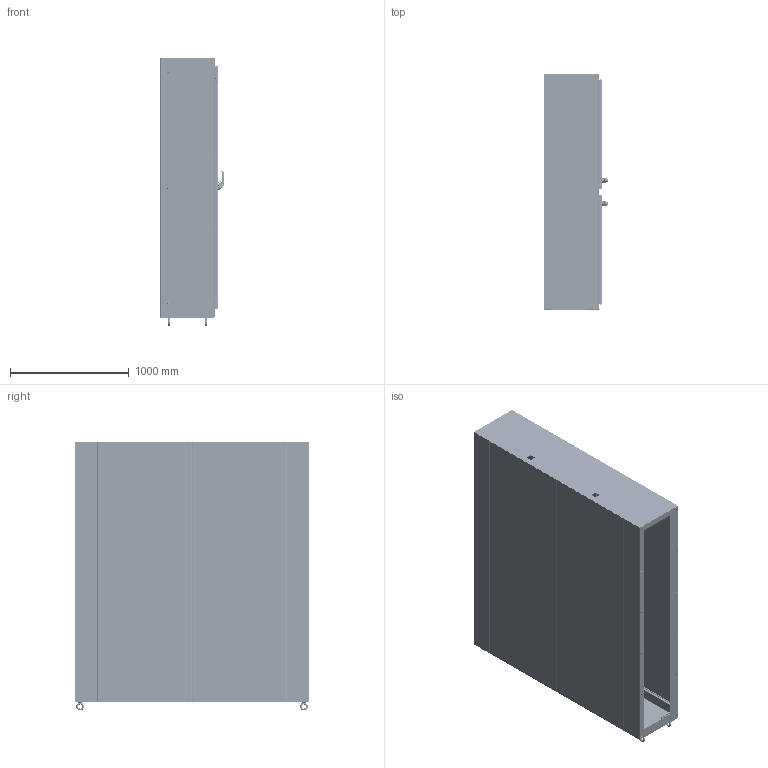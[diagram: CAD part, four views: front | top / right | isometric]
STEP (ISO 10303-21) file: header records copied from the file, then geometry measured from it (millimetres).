
FILE_DESCRIPTION((''),'2;1');
FILE_NAME('MODEL-437_ASM','2023-11-29T11:00:34',('JoelB'),('SAGINAW CONTROL & ENGINEERING'),'CREO PARAMETRIC BY PTC INC, 2021284','CREO PARAMETRIC BY PTC INC, 2021284','');
FILE_SCHEMA(('AUTOMOTIVE_DESIGN { 1 0 10303 214 1 1 1 1 }'));
Length unit declared in the file: inch
Products named in the file (93): MODEL-437-L-SD; MODEL-437-TP; MODEL-437-R-SD; MODEL-437-BTM; MODEL-437-RH-DR; 100837; 100957_HANDLE; 100957_HANDLE_INSERT; 100957_SHAFT_CAM; 100957_ADAPTER_CAM; 100957_NUT_CAM; 100957_BASE; 100957_O-RING; 100957_WASHER_SEALING; 100957_NUT_MOUNTING_LARGE; 100957_NUT_MOUNTING_SMALL; 100957_SCREW_SMALL; 100957_PADLOCK_CATCH; 100957_STOP_CAM; 100957_ASM; 102236; 100030; 102236_ASM; MODEL-437-ROD-RH-UPR; 128146; 128145; 128144; 102482; MODEL-437-ROD-RH-UPR_ASM; 128143; 100882; 112504; MODEL-437-ROD-RH-LWR; MODEL-437-ROD-RH-LWR_ASM; MODEL-437-PR-GSKT-RH; 128257; 128257_ASM; 126393; 102483; 101369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
Assembly tree (233 placements, depth 4):
  MODEL-437_ASM
    MODEL-437-L-SD
    MODEL-437-TP
    MODEL-437-R-SD
    MODEL-437-BTM
    MODEL-437-RH-DOOR-ASSY_ASM
      MODEL-437-RH-DR
      100837  x3
      100957_ASM
        100957_HANDLE
        100957_HANDLE_INSERT
        100957_SHAFT_CAM
        100957_ADAPTER_CAM
        100957_NUT_CAM
        100957_BASE
        100957_O-RING
        100957_WASHER_SEALING
        100957_NUT_MOUNTING_LARGE
        100957_NUT_MOUNTING_SMALL
        100957_SCREW_SMALL
        100957_PADLOCK_CATCH
        100957_STOP_CAM
      102236_ASM
        102236
        100030  x2
      MODEL-437-ROD-RH-UPR_ASM
        MODEL-437-ROD-RH-UPR
        128146
        128145
        128144
        102482  x2
      128143  x2
      100882  x10
      112504  x2
      MODEL-437-ROD-RH-LWR_ASM
        MODEL-437-ROD-RH-LWR
        128146
        128145
        128144
        102482  x2
      MODEL-437-PR-GSKT-RH
      128257_ASM  x4
        128257
      126393  x4
      102483  x4
      101369_ASM  x4
        101369
        101369-STUD
      101221  x4
    MODEL-437-LH-DOOR-ASSY_ASM
      MODEL-437-LH-DR
      100837  x3
      100957_ASM
        100957_HANDLE
        100957_HANDLE_INSERT
        100957_SHAFT_CAM
        100957_ADAPTER_CAM
        100957_NUT_CAM
        100957_BASE
        100957_O-RING
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Bounding box: 534.57 x 1974.85 x 2259.2 mm (x, y, z)
Volume: 49802774.1 mm3; surface area: 35558279.7 mm2
Topology: 266 solids, 266 shells, 23456 faces, 60018 edges, 37251 vertices
Faces by surface type: plane 8129, cylinder 6675, bspline 4711, torus 1701, cone 1241, sphere 678, extrusion 321
Entity records: 508721 total; most frequent: CARTESIAN_POINT 218416, ORIENTED_EDGE 42858, DIRECTION 41092, PRESENTATION_STYLE_ASSIGNMENT 22702, STYLED_ITEM 22562, CURVE_STYLE 21429, EDGE_CURVE 21429, AXIS2_PLACEMENT_3D 15285
